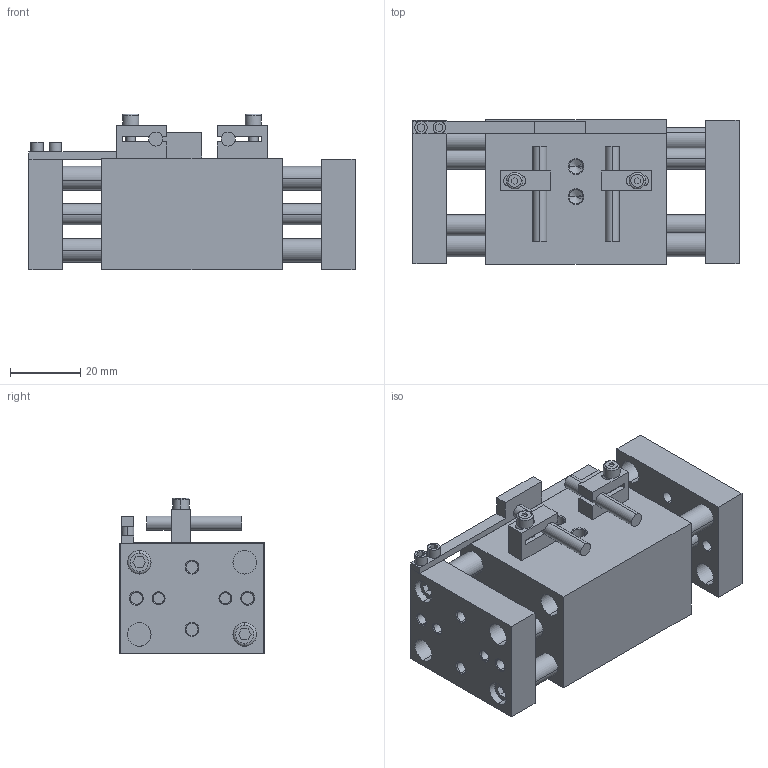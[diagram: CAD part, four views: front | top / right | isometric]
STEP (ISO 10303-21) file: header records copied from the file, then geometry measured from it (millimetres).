
FILE_DESCRIPTION (( 'STEP AP203' ), '1' );
FILE_NAME ('AGW-250 OPEN in MM.STEP', '2014-11-03T14:39:48', ( 'setup' ), ( '' ), 'SwSTEP 2.0', 'SolidWorks 2013', '' );
FILE_SCHEMA (( 'CONFIG_CONTROL_DESIGN' ));
Length unit declared in the file: millimetre
Products named in the file (8): AGW-250 TOOL PLATE; AGW-250 SENSOR BLOCK; AGW-250 SENSOR; AGW-250 PROD; AGW-250 GUIDE ROD; AGW-250 SENSOR FLAG; AGW-250 OPEN in MM; AGW-250 BODY
Assembly tree (16 placements, depth 2):
  AGW-250 OPEN in MM
    AGW-250 BODY
    AGW-250 TOOL PLATE  x2
    AGW-250 SENSOR BLOCK  x2
    AGW-250 SENSOR  x2
    AGW-250 PROD  x4
    AGW-250 GUIDE ROD  x4
    AGW-250 SENSOR FLAG
Bounding box: 92.96 x 41.27 x 44.45 mm (x, y, z)
Volume: 92236.5 mm3; surface area: 38953.2 mm2
Topology: 20 solids, 20 shells, 370 faces, 884 edges, 552 vertices
Faces by surface type: plane 164, cylinder 134, cone 60, torus 12
Entity records: 7980 total; most frequent: DIRECTION 1264, CARTESIAN_POINT 1249, ORIENTED_EDGE 1096, EDGE_CURVE 548, AXIS2_PLACEMENT_3D 469, VERTEX_POINT 346, LINE 326, VECTOR 326
